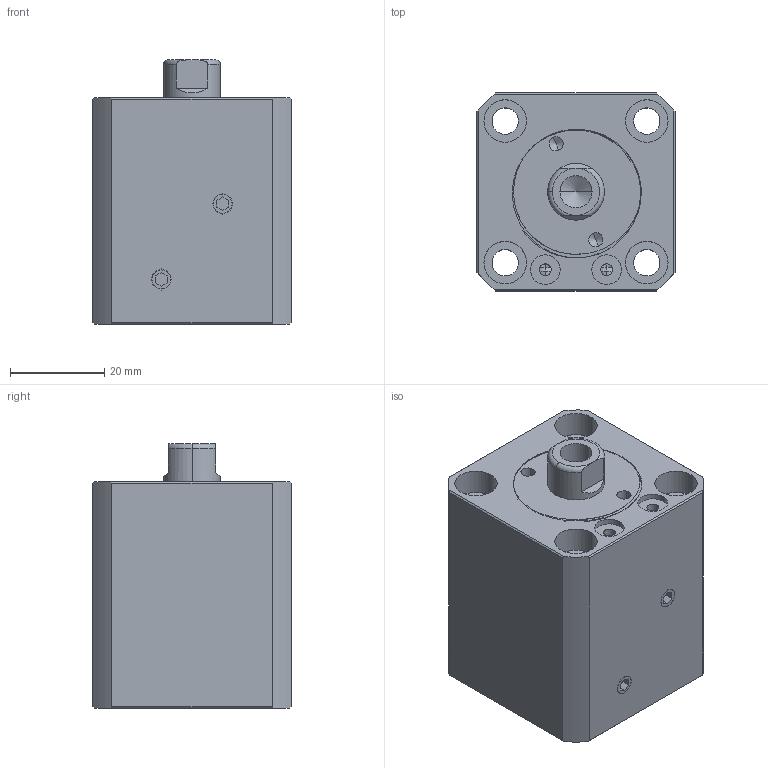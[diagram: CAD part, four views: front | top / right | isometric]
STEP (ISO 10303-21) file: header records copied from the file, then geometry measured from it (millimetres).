
FILE_DESCRIPTION (( 'STEP AP214' ), '1' );
FILE_NAME ('chtb-sdma20x5n_asm.STEP', '2018-05-17T12:57:48', ( '' ), ( '' ), 'SwSTEP 2.0', 'SolidWorks 2016', '' );
FILE_SCHEMA (( 'AUTOMOTIVE_DESIGN' ));
Length unit declared in the file: millimetre
Products named in the file (5): socket set screw flat point_iso_ISO 4026 - M5 x 5-N; QG_3; CHTB-SDMA20X5NHSG; CHTB-SDMA20X5NBT; chtb-sdma20x5n_asm
Assembly tree (5 placements, depth 2):
  chtb-sdma20x5n_asm
    CHTB-SDMA20X5NBT
    CHTB-SDMA20X5NHSG
    QG_3
    socket set screw flat point_iso_ISO 4026 - M5 x 5-N  x2
Bounding box: 42 x 42 x 56 mm (x, y, z)
Volume: 74186.5 mm3; surface area: 26522 mm2
Topology: 5 solids, 5 shells, 232 faces, 602 edges, 396 vertices
Faces by surface type: cylinder 111, plane 61, torus 25, bspline 21, cone 14
Entity records: 12042 total; most frequent: CARTESIAN_POINT 6742, ORIENTED_EDGE 1128, DIRECTION 1000, EDGE_CURVE 564, AXIS2_PLACEMENT_3D 415, VERTEX_POINT 376, EDGE_LOOP 256, FACE_OUTER_BOUND 217
